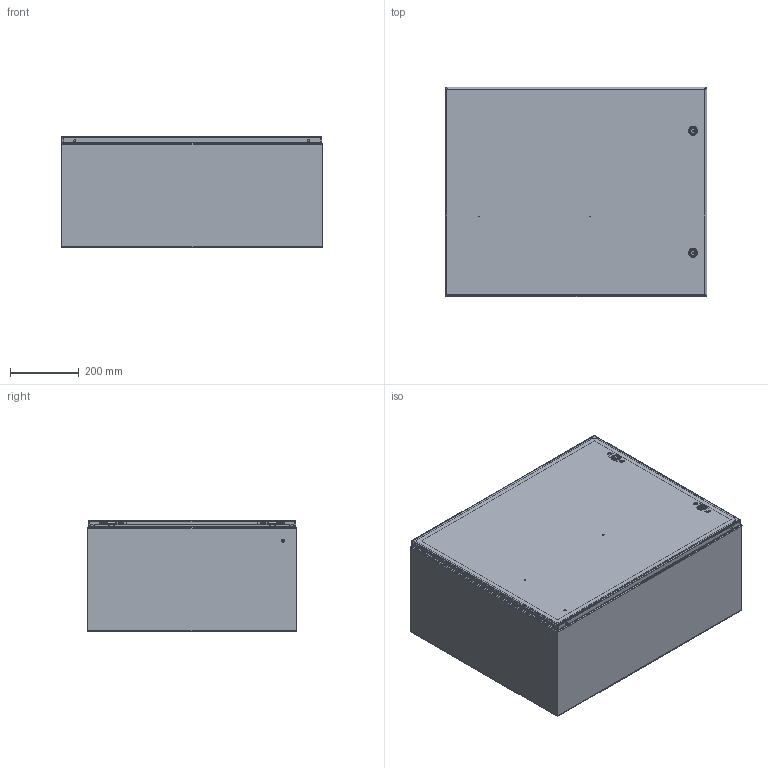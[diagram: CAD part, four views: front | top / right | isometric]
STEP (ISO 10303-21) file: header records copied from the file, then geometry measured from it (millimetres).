
FILE_DESCRIPTION (( 'STEP AP203' ), '1' );
FILE_NAME ('29403.step', '2015-03-30T06:12:12', ( '' ), ( '' ), 'SwSTEP 2.0', 'SolidWorks 2010', '' );
FILE_SCHEMA (( 'CONFIG_CONTROL_DESIGN' ));
Length unit declared in the file: inch
Products named in the file (24): 29403; 89116838; 89116837_default; 23271001_After Weld; 87937935_assy; 87937975_weldment; 87936134; 99401225; 87931362_87931362; 64101001; 64201001; 87541994_Installed Height; 87541995; 64202001; 64210001; 64203001; 87938005; 87543027; 89076399; 89076193; 89056623; 87929507; 87929767; 87929769_Installed on Pin
Assembly tree (32 placements, depth 4):
  29403
    87929507  x2
      87929769_Installed on Pin
      87929767
    87937935_assy
      64101001  x2
        64201001
        64210001
        64203001
        87541994_Installed Height
        64202001
        87541995
      87938005
      87937975_weldment
        87931362_87931362  x2
        99401225
        87936134
    89076399  x2
      89076193
      89056623
    87543027  x2
    89116838
      99401225
      23271001_After Weld  x4
      89116837_default
Bounding box: 762 x 609.6 x 325.5 mm (x, y, z)
Volume: 3053272.7 mm3; surface area: 3902751.6 mm2
Topology: 35 solids, 35 shells, 1541 faces, 3794 edges, 2344 vertices
Faces by surface type: plane 631, cylinder 510, bspline 224, torus 104, cone 64, sphere 8
Entity records: 34309 total; most frequent: CARTESIAN_POINT 9989, ORIENTED_EDGE 4564, DIRECTION 4346, EDGE_CURVE 2282, AXIS2_PLACEMENT_3D 1551, VERTEX_POINT 1404, VECTOR 1244, LINE 1244
